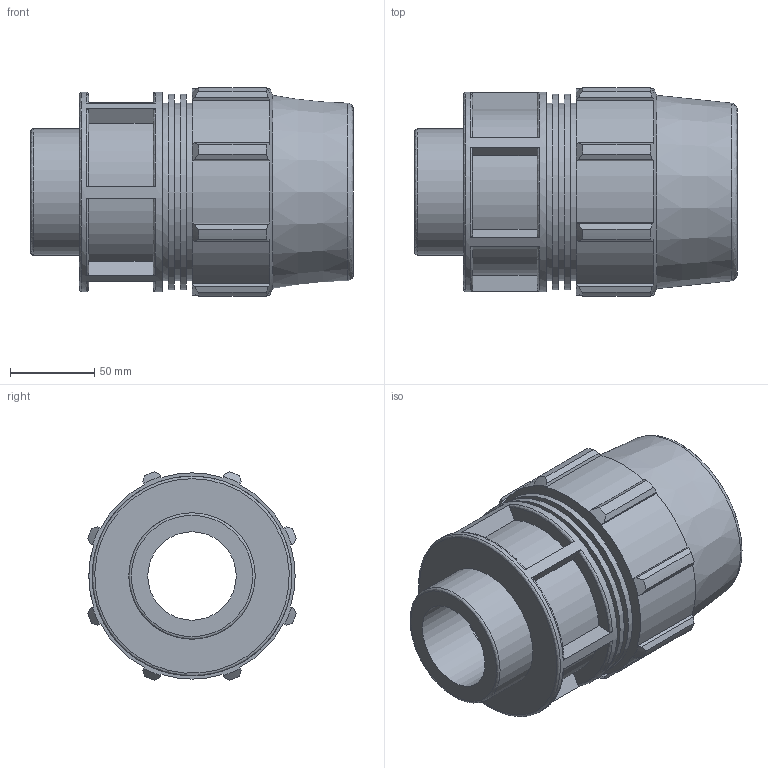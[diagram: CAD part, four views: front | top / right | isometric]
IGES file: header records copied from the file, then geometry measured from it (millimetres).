
Global section: file name: 870200075025_180200075025_840206075025.ipt; native system: Autodesk Inventor 2015; preprocessor: unknown; author: KIM; date: 20180325.201131; units: millimetre
Bounding box: 192 x 124.2 x 124.2 mm (x, y, z)
Volume: 988974 mm3; surface area: 148994.5 mm2
Topology: 1 solids, 1 shells, 125 faces, 333 edges, 224 vertices
Faces by surface type: plane 67, cylinder 29, revolution 19, cone 10
Full cylindrical faces by diameter (mm): 75.184 x1, 105.6 x3, 116.424 x2, 118.8 x1
